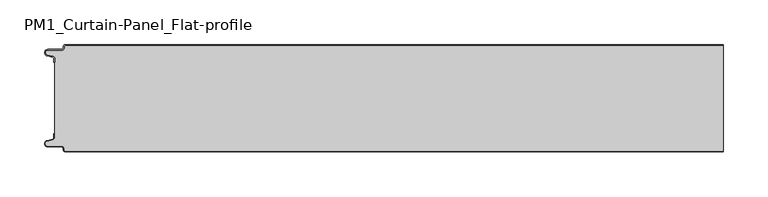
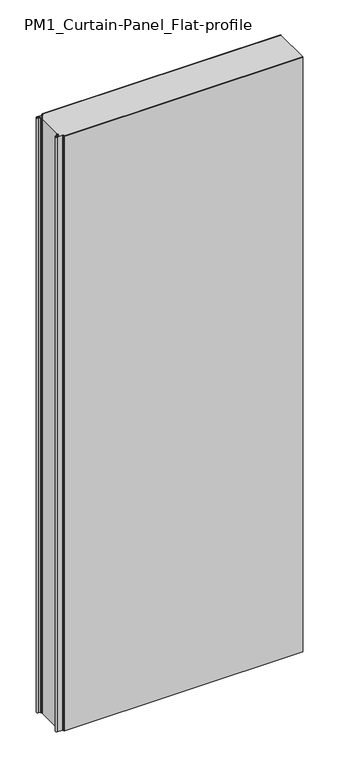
"""IFC4 building model written with IfcOpenShell, lengths in millimetres: plate geometry, PM1_Curtain-Panel_Flat-profile : ACH_PM1_Stone-wool-Panel_120M."""

from ifc_helpers import new_model, si_unit, point, frame_2d, origin, origin_with_axes, place, context, project, spatial, polyline, circle_curve, trimmed, segment, composite_curve, outline, extrude, source, transform, mapped, element, save


def pm1_curtain_panel_flat_profile_87bdf2c1(model_context):
    return source(origin(), model_context, "Body", "SweptSolid", [
        extrude(outline(composite_curve([segment(trimmed(circle_curve(frame_2d((-362.4119739, -2.0)), 1.2), [point((-362.4119739, -0.8))], [point((-363.6119739, -2.0))], True, "CARTESIAN"), True, "CONTINUOUS"), segment(polyline([(-363.6119739, -2.0), (-363.6119739, -3.4)]), True, "CONTINUOUS"), segment(trimmed(circle_curve(frame_2d((-366.4119739, -3.4)), 2.8), [point((-363.6119739, -3.4))], [point((-366.4119739, -6.2))], False, "CARTESIAN"), True, "CONTINUOUS"), segment(polyline([(-366.4119739, -6.2), (-381.9119739, -6.2)]), True, "CONTINUOUS"), segment(trimmed(circle_curve(frame_2d((-381.9119739, -9.0)), 2.8), [point((-381.9119739, -6.2))], [point((-382.541837, -11.7282362))], True, "CARTESIAN"), True, "CONTINUOUS"), segment(polyline([(-382.541837, -11.7282362), (-376.3821109, -13.150321)]), True, "CONTINUOUS"), segment(trimmed(circle_curve(frame_2d((-377.0119739, -15.878557)), 2.8), [point((-376.3821109, -13.150321))], [point((-374.2119739, -15.878557))], False, "CARTESIAN"), True, "CONTINUOUS"), segment(polyline([(-374.2119739, -15.878557), (-374.2119739, -20.0), (-375.0119739, -20.0), (-375.0119739, -15.878557)]), True, "CONTINUOUS"), segment(trimmed(circle_curve(frame_2d((-377.0119739, -15.878557)), 2.0), [point((-375.0119739, -15.878557))], [point((-376.5620718, -13.9298169))], True, "CARTESIAN"), True, "CONTINUOUS"), segment(polyline([(-376.5620718, -13.9298169), (-382.7217978, -12.507732)]), True, "CONTINUOUS"), segment(trimmed(circle_curve(frame_2d((-381.9119739, -9.0)), 3.6), [point((-382.7217978, -12.507732))], [point((-381.9119739, -5.4))], False, "CARTESIAN"), True, "CONTINUOUS"), segment(polyline([(-381.9119739, -5.4), (-366.4119739, -5.4)]), True, "CONTINUOUS"), segment(trimmed(circle_curve(frame_2d((-366.4119739, -3.4)), 2.0), [point((-366.4119739, -5.4))], [point((-364.4119739, -3.4))], True, "CARTESIAN"), True, "CONTINUOUS"), segment(polyline([(-364.4119739, -3.4), (-364.4119739, -2.0)]), True, "CONTINUOUS"), segment(trimmed(circle_curve(frame_2d((-362.4119739, -2.0)), 2.0), [point((-364.4119739, -2.0))], [point((-362.4119739, 0.0))], False, "CARTESIAN"), True, "CONTINUOUS"), segment(polyline([(-362.4119739, 0.0), (375.0119739, 0.0), (375.0119739, -0.8), (-362.4119739, -0.8)]), True, "CONTINUOUS")], self_intersect=False)), origin_with_axes(), (0.0, 0.0, 1.0), 1945.7507136),
        extrude(outline(composite_curve([segment(polyline([(-374.2119739, -104.1214426), (-374.2119739, -15.8785573)]), True, "CONTINUOUS"), segment(trimmed(circle_curve(frame_2d((-377.0119739, -15.8785573)), 2.8), [point((-374.2119739, -15.8785573))], [point((-376.3821109, -13.1503212))], True, "CARTESIAN"), True, "CONTINUOUS"), segment(polyline([(-376.3821109, -13.1503212), (-382.541837, -11.7282362)]), True, "CONTINUOUS"), segment(trimmed(circle_curve(frame_2d((-381.911974, -9.0)), 2.8), [point((-382.541837, -11.7282362))], [point((-381.911974, -6.2))], False, "CARTESIAN"), True, "CONTINUOUS"), segment(polyline([(-381.911974, -6.2), (-366.411974, -6.2)]), True, "CONTINUOUS"), segment(trimmed(circle_curve(frame_2d((-366.411974, -3.4)), 2.8), [point((-366.411974, -6.2))], [point((-363.611974, -3.4))], True, "CARTESIAN"), True, "CONTINUOUS"), segment(polyline([(-363.611974, -3.4), (-363.611974, -2.0)]), True, "CONTINUOUS"), segment(trimmed(circle_curve(frame_2d((-362.411974, -2.0)), 1.2), [point((-363.611974, -2.0))], [point((-362.411974, -0.8))], False, "CARTESIAN"), True, "CONTINUOUS"), segment(polyline([(-362.411974, -0.8), (375.0119739, -0.8), (375.0119739, -119.2), (-362.411974, -119.2)]), True, "CONTINUOUS"), segment(trimmed(circle_curve(frame_2d((-362.411974, -118.0)), 1.2), [point((-362.411974, -119.2))], [point((-363.611974, -118.0))], False, "CARTESIAN"), True, "CONTINUOUS"), segment(polyline([(-363.611974, -118.0), (-363.611974, -116.6)]), True, "CONTINUOUS"), segment(trimmed(circle_curve(frame_2d((-366.411974, -116.6)), 2.8), [point((-363.611974, -116.6))], [point((-366.411974, -113.8))], True, "CARTESIAN"), True, "CONTINUOUS"), segment(polyline([(-366.411974, -113.8), (-381.911974, -113.8)]), True, "CONTINUOUS"), segment(trimmed(circle_curve(frame_2d((-381.911974, -111.0)), 2.8), [point((-381.911974, -113.8))], [point((-382.541837, -108.2717638))], False, "CARTESIAN"), True, "CONTINUOUS"), segment(polyline([(-382.541837, -108.2717638), (-376.3821109, -106.8496788)]), True, "CONTINUOUS"), segment(trimmed(circle_curve(frame_2d((-377.0119739, -104.1214426)), 2.8), [point((-376.3821109, -106.8496788))], [point((-374.2119739, -104.1214426))], True, "CARTESIAN"), True, "CONTINUOUS")], self_intersect=False)), origin_with_axes(), (0.0, 0.0, 1.0), 1945.7507136),
        extrude(outline(composite_curve([segment(trimmed(circle_curve(frame_2d((-362.4119739, -118.0)), 2.0), [point((-362.4119739, -120.0))], [point((-364.4119739, -118.0))], False, "CARTESIAN"), True, "CONTINUOUS"), segment(polyline([(-364.4119739, -118.0), (-364.4119739, -116.6)]), True, "CONTINUOUS"), segment(trimmed(circle_curve(frame_2d((-366.4119739, -116.6)), 2.0), [point((-364.4119739, -116.6))], [point((-366.4119739, -114.6))], True, "CARTESIAN"), True, "CONTINUOUS"), segment(polyline([(-366.4119739, -114.6), (-381.9119739, -114.6)]), True, "CONTINUOUS"), segment(trimmed(circle_curve(frame_2d((-381.9119739, -111.0)), 3.6), [point((-381.9119739, -114.6))], [point((-382.7217979, -107.4922678))], False, "CARTESIAN"), True, "CONTINUOUS"), segment(polyline([(-382.7217979, -107.4922678), (-376.5620718, -106.070183)]), True, "CONTINUOUS"), segment(trimmed(circle_curve(frame_2d((-377.0119739, -104.121443)), 2.0), [point((-376.5620718, -106.070183))], [point((-375.0119739, -104.121443))], True, "CARTESIAN"), True, "CONTINUOUS"), segment(polyline([(-375.0119739, -104.121443), (-375.0119739, -100.0), (-374.2119739, -100.0), (-374.2119739, -104.121443)]), True, "CONTINUOUS"), segment(trimmed(circle_curve(frame_2d((-377.0119739, -104.121443)), 2.8), [point((-374.2119739, -104.121443))], [point((-376.3821109, -106.8496792))], False, "CARTESIAN"), True, "CONTINUOUS"), segment(polyline([(-376.3821109, -106.8496792), (-382.5418369, -108.271764)]), True, "CONTINUOUS"), segment(trimmed(circle_curve(frame_2d((-381.9119739, -111.0)), 2.8), [point((-382.5418369, -108.271764))], [point((-381.9119739, -113.8))], True, "CARTESIAN"), True, "CONTINUOUS"), segment(polyline([(-381.9119739, -113.8), (-366.4119739, -113.8)]), True, "CONTINUOUS"), segment(trimmed(circle_curve(frame_2d((-366.4119739, -116.6)), 2.8), [point((-366.4119739, -113.8))], [point((-363.6119739, -116.6))], False, "CARTESIAN"), True, "CONTINUOUS"), segment(polyline([(-363.6119739, -116.6), (-363.6119739, -118.0)]), True, "CONTINUOUS"), segment(trimmed(circle_curve(frame_2d((-362.4119739, -118.0)), 1.2), [point((-363.6119739, -118.0))], [point((-362.4119739, -119.2))], True, "CARTESIAN"), True, "CONTINUOUS"), segment(polyline([(-362.4119739, -119.2), (375.0119739, -119.2), (375.0119739, -120.0), (-362.4119739, -120.0)]), True, "CONTINUOUS")], self_intersect=False)), origin_with_axes(), (0.0, 0.0, 1.0), 1945.7507136),
    ])


if __name__ == "__main__":
    model = new_model("IFC4")
    model_context = context("Model", 3, world=origin())
    ifc_project = project(units=[si_unit("LENGTHUNIT", "METRE", prefix="MILLI")], contexts=[model_context])
    site = spatial("IfcSite", under=ifc_project)
    building = spatial("IfcBuilding", under=site)
    placement = place(None, origin())
    pm1_curtain_panel_flat_profile_shape = pm1_curtain_panel_flat_profile_87bdf2c1(model_context)
    element("IfcPlate", 1, ObjectType="PM1_Curtain-Panel_Flat-profile : ACH_PM1_Stone-wool-Panel_120M", at=placement, inside=building, context=model_context, shape_type="MappedRepresentation", body=[
        mapped(pm1_curtain_panel_flat_profile_shape, transform((0.0, 0.0, 0.0), x_axis=(1.0, 0.0, 0.0), y_axis=(0.0, 1.0, 0.0), z_axis=(0.0, 0.0, 1.0))),
    ])
    save(model, "model.ifc")
